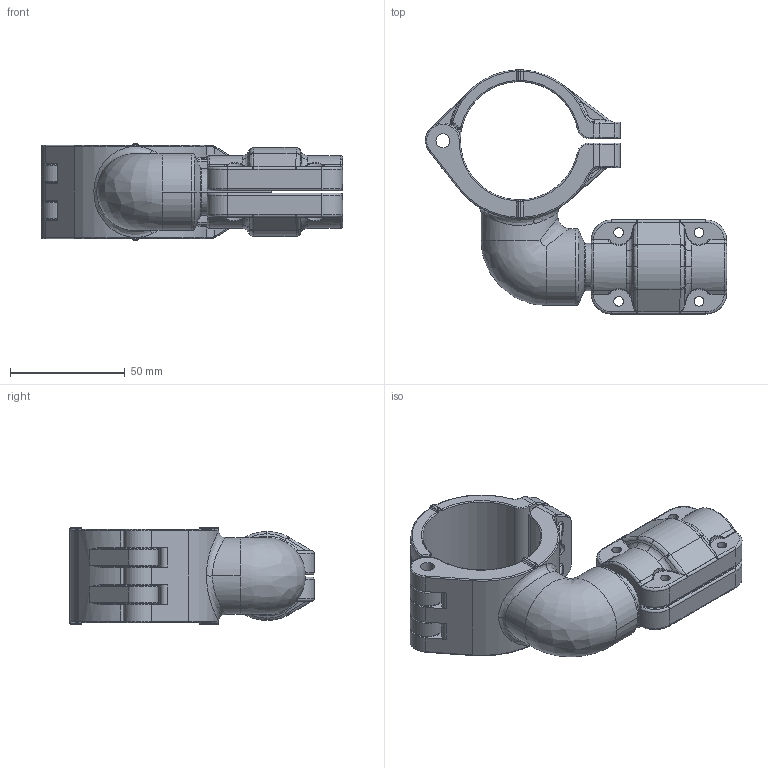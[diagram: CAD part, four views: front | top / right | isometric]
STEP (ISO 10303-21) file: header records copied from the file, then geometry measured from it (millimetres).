
FILE_DESCRIPTION((''),'2;1');
FILE_NAME('2015511099_ASM_2_ASM','2017-05-15T',('Administrator'),(''),'PRO/ENGINEER BY PARAMETRIC TECHNOLOGY CORPORATION, 2009360','PRO/ENGINEER BY PARAMETRIC TECHNOLOGY CORPORATION, 2009360','');
FILE_SCHEMA(('AUTOMOTIVE_DESIGN_CC2 { 1 2 10303 214 -1 1 5 2 }'));
Length unit declared in the file: millimetre
Products named in the file (8): MANIFOLD_SOLID_BREP_95_2_1; MANIFOLD_SOLID_BREP_96_3_1; 2017511000_ASM_6_ASM_1_ASM; 2017511000_ASM_ASM_1_ASM; 201510020000_38_1; 201510020001_10_1; 2015100200_ASM_1_ASM; 2015511099_ASM_2_ASM
Assembly tree (7 placements, depth 4):
  2015511099_ASM_2_ASM
    2017511000_ASM_ASM_1_ASM
      2017511000_ASM_6_ASM_1_ASM
        MANIFOLD_SOLID_BREP_95_2_1
        MANIFOLD_SOLID_BREP_96_3_1
    2015100200_ASM_1_ASM
      201510020000_38_1
      201510020001_10_1
Bounding box: 131.22 x 106.36 x 42.62 mm (x, y, z)
Volume: 129584.7 mm3; surface area: 51475.3 mm2
Topology: 4 solids, 10 shells, 715 faces, 1789 edges, 1057 vertices
Faces by surface type: cylinder 231, bspline 195, torus 160, plane 85, sphere 24, cone 20
Entity records: 36288 total; most frequent: CARTESIAN_POINT 15147, ORIENTED_EDGE 3500, DIRECTION 3160, EDGE_CURVE 1750, AXIS2_PLACEMENT_3D 1384, PRESENTATION_STYLE_ASSIGNMENT 1246, STYLED_ITEM 1246, VERTEX_POINT 1057
